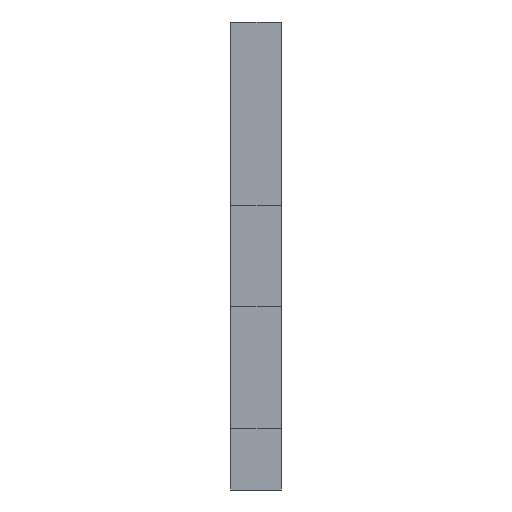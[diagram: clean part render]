
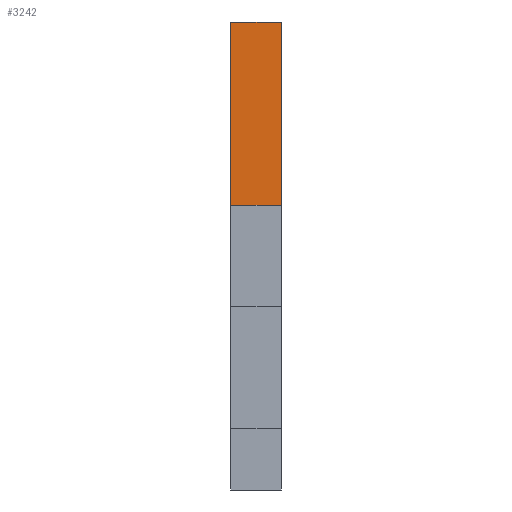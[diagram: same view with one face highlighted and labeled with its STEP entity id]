
A CAD part, left-side view. The second image highlights one B-rep face of the part: STEP entity #3242.
In plain terms, the highlighted planar face has unit normal (-1, 0, 0).
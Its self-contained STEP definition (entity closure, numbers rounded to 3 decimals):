
#9 = DIRECTION ( 'NONE',  ( 0., -1., 0. ) ) ;
#52 = PLANE ( 'NONE',  #1219 ) ;
#432 = LINE ( 'NONE', #800, #807 ) ;
#657 = VERTEX_POINT ( 'NONE', #1045 ) ;
#719 = DIRECTION ( 'NONE',  ( 0., 0., -1. ) ) ;
#798 = EDGE_LOOP ( 'NONE', ( #2980, #2838, #2960, #1582 ) ) ;
#800 = CARTESIAN_POINT ( 'NONE',  ( -141.5, 0., 0. ) ) ;
#807 = VECTOR ( 'NONE', #1122, 1000. ) ;
#869 = VERTEX_POINT ( 'NONE', #2611 ) ;
#918 = EDGE_CURVE ( 'NONE', #869, #3439, #1104, .T. ) ;
#923 = VECTOR ( 'NONE', #4037, 1000. ) ;
#1035 = VECTOR ( 'NONE', #9, 1000. ) ;
#1045 = CARTESIAN_POINT ( 'NONE',  ( -141.5, 0., 11.5 ) ) ;
#1056 = DIRECTION ( 'NONE',  ( 1., 0., 0. ) ) ;
#1104 = LINE ( 'NONE', #3991, #1220 ) ;
#1122 = DIRECTION ( 'NONE',  ( 0., 0., 1. ) ) ;
#1219 = AXIS2_PLACEMENT_3D ( 'NONE', #3679, #1056, #719 ) ;
#1220 = VECTOR ( 'NONE', #3681, 1000. ) ;
#1582 = ORIENTED_EDGE ( 'NONE', *, *, #918, .T. ) ;
#1614 = LINE ( 'NONE', #3540, #1035 ) ;
#1869 = EDGE_CURVE ( 'NONE', #869, #2004, #2456, .T. ) ;
#1951 = CARTESIAN_POINT ( 'NONE',  ( -141.5, 0., 2.5 ) ) ;
#2004 = VERTEX_POINT ( 'NONE', #3170 ) ;
#2456 = LINE ( 'NONE', #3104, #923 ) ;
#2611 = CARTESIAN_POINT ( 'NONE',  ( -141.5, 2.5, 2.5 ) ) ;
#2838 = ORIENTED_EDGE ( 'NONE', *, *, #3126, .F. ) ;
#2928 = FACE_OUTER_BOUND ( 'NONE', #798, .T. ) ;
#2960 = ORIENTED_EDGE ( 'NONE', *, *, #1869, .F. ) ;
#2980 = ORIENTED_EDGE ( 'NONE', *, *, #3365, .T. ) ;
#3104 = CARTESIAN_POINT ( 'NONE',  ( -141.5, 2.5, 0. ) ) ;
#3126 = EDGE_CURVE ( 'NONE', #2004, #657, #1614, .T. ) ;
#3170 = CARTESIAN_POINT ( 'NONE',  ( -141.5, 2.5, 11.5 ) ) ;
#3242 = ADVANCED_FACE ( 'NONE', ( #2928 ), #52, .F. ) ;
#3365 = EDGE_CURVE ( 'NONE', #3439, #657, #432, .T. ) ;
#3439 = VERTEX_POINT ( 'NONE', #1951 ) ;
#3540 = CARTESIAN_POINT ( 'NONE',  ( -141.5, 2.5, 11.5 ) ) ;
#3679 = CARTESIAN_POINT ( 'NONE',  ( -141.5, 2.5, 0. ) ) ;
#3681 = DIRECTION ( 'NONE',  ( 0., -1., 0. ) ) ;
#3991 = CARTESIAN_POINT ( 'NONE',  ( -141.5, 2.5, 2.5 ) ) ;
#4037 = DIRECTION ( 'NONE',  ( 0., 0., 1. ) ) ;
